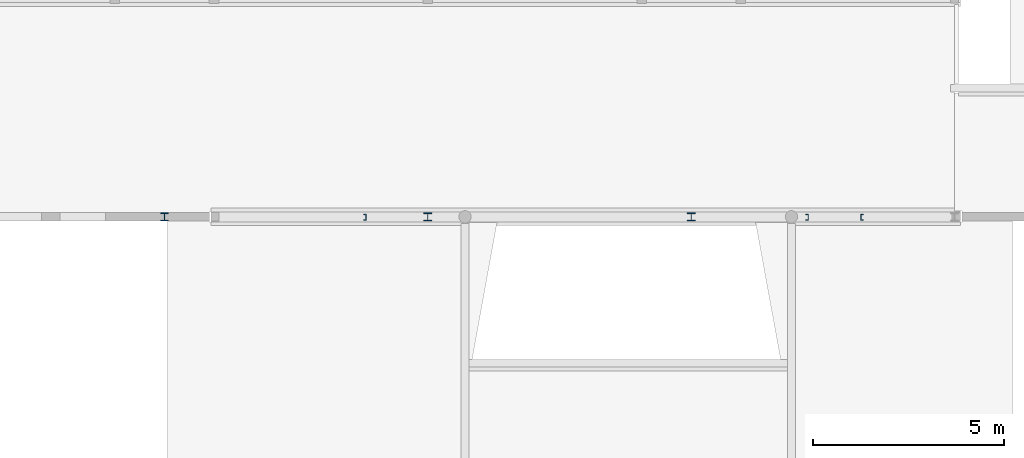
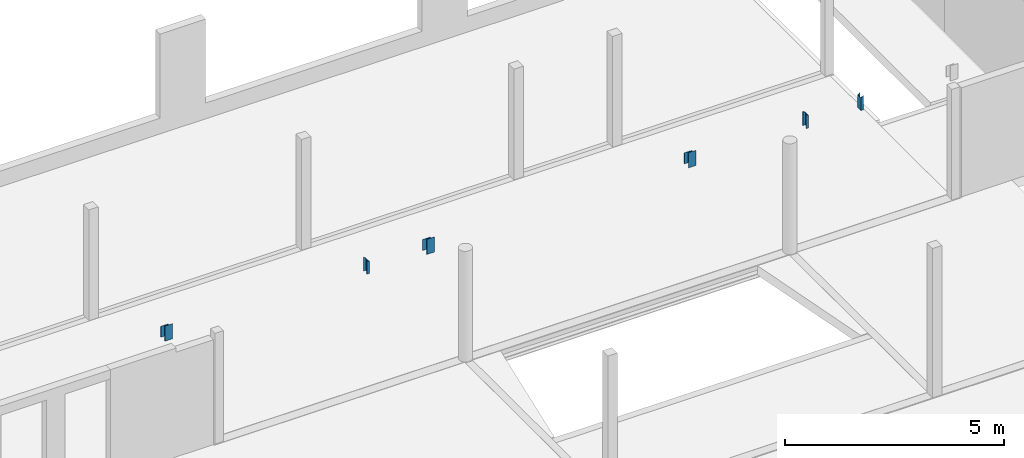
# One storey, part 5 of 6: 6 columns.
"""IFC2X3 building model written with IfcOpenShell, lengths in millimetres."""

from ifc_helpers import new_model, entity, si_unit, converted_unit, derived_unit, direction, frame, origin, place, context, subcontext, project, spatial, faceted_brep, source, transform, mapped, material, type_object, type_shapes, element, save


model = new_model("IFC2X3")

# Units and contexts
model_context = context("Model", 3, precision=0.01, world=origin(), true_north=direction((6.123031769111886e-17, 1.0)))
body_context = subcontext(model_context, "Body", "Model", "MODEL_VIEW")
ifc_project = project(units=[si_unit("LENGTHUNIT", "METRE", prefix="MILLI"), si_unit("AREAUNIT", "SQUARE_METRE", prefix="MILLI"), si_unit("VOLUMEUNIT", "CUBIC_METRE"), converted_unit("PLANEANGLEUNIT", "DEGREE", entity("IfcPlaneAngleMeasure", 0.017453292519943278), si_unit("PLANEANGLEUNIT", "RADIAN"), dimensions=[0, 0, 0, 0, 0, 0, 0]), si_unit("MASSUNIT", "GRAM", prefix="KILO"), derived_unit("MASSDENSITYUNIT", [(si_unit("MASSUNIT", "GRAM", prefix="KILO"), 1), (si_unit("LENGTHUNIT", "METRE"), -3)]), derived_unit("IONCONCENTRATIONUNIT", [(si_unit("MASSUNIT", "GRAM", prefix="KILO"), 1), (si_unit("LENGTHUNIT", "METRE"), -3)]), derived_unit("MOMENTOFINERTIAUNIT", [(si_unit("LENGTHUNIT", "METRE"), 4)]), si_unit("TIMEUNIT", "SECOND"), si_unit("FREQUENCYUNIT", "HERTZ"), si_unit("THERMODYNAMICTEMPERATUREUNIT", "DEGREE_CELSIUS"), derived_unit("THERMALTRANSMITTANCEUNIT", [(si_unit("MASSUNIT", "GRAM", prefix="KILO"), 1), (si_unit("THERMODYNAMICTEMPERATUREUNIT", "KELVIN"), -1), (si_unit("TIMEUNIT", "SECOND"), -3)]), derived_unit("THERMALCONDUCTANCEUNIT", [(si_unit("MASSUNIT", "GRAM", prefix="KILO"), 1), (si_unit("THERMODYNAMICTEMPERATUREUNIT", "KELVIN"), -1), (si_unit("TIMEUNIT", "SECOND"), -3), (si_unit("LENGTHUNIT", "METRE"), 1)]), derived_unit("VOLUMETRICFLOWRATEUNIT", [(si_unit("LENGTHUNIT", "METRE", prefix="DECI"), 3), (si_unit("TIMEUNIT", "SECOND"), -1)]), derived_unit("MASSFLOWRATEUNIT", [(si_unit("MASSUNIT", "GRAM", prefix="KILO"), 1), (si_unit("TIMEUNIT", "SECOND"), -1)]), derived_unit("ROTATIONALFREQUENCYUNIT", [(si_unit("TIMEUNIT", "SECOND"), -1)]), si_unit("ELECTRICCURRENTUNIT", "AMPERE"), si_unit("ELECTRICVOLTAGEUNIT", "VOLT"), si_unit("POWERUNIT", "WATT"), si_unit("FORCEUNIT", "NEWTON", prefix="KILO"), si_unit("ILLUMINANCEUNIT", "LUX"), si_unit("LUMINOUSFLUXUNIT", "LUMEN"), si_unit("LUMINOUSINTENSITYUNIT", "CANDELA"), si_unit("ENERGYUNIT", "JOULE"), derived_unit("USERDEFINED", [(si_unit("MASSUNIT", "GRAM", prefix="KILO"), -1), (si_unit("LENGTHUNIT", "METRE"), -2), (si_unit("TIMEUNIT", "SECOND"), 3), (si_unit("LUMINOUSFLUXUNIT", "LUMEN"), 1)]), derived_unit("USERDEFINED", [(si_unit("MASSUNIT", "GRAM", prefix="KILO"), 1), (si_unit("TIMEUNIT", "SECOND"), -3), (si_unit("LENGTHUNIT", "METRE"), 3), (si_unit("ELECTRICCURRENTUNIT", "AMPERE"), -2)]), derived_unit("SOUNDPOWERUNIT", [(si_unit("MASSUNIT", "GRAM", prefix="KILO"), 1), (si_unit("TIMEUNIT", "SECOND"), -3), (si_unit("LENGTHUNIT", "METRE"), 2)]), derived_unit("SOUNDPRESSUREUNIT", [(si_unit("MASSUNIT", "GRAM", prefix="KILO"), 1), (si_unit("LENGTHUNIT", "METRE"), -1), (si_unit("TIMEUNIT", "SECOND"), -2)]), derived_unit("LINEARVELOCITYUNIT", [(si_unit("LENGTHUNIT", "METRE"), 1), (si_unit("TIMEUNIT", "SECOND"), -1)]), si_unit("PRESSUREUNIT", "PASCAL"), derived_unit("USERDEFINED", [(si_unit("MASSUNIT", "GRAM", prefix="KILO"), 1), (si_unit("LENGTHUNIT", "METRE"), -2), (si_unit("TIMEUNIT", "SECOND"), -2)]), derived_unit("LINEARFORCEUNIT", [(si_unit("MASSUNIT", "GRAM", prefix="KILO"), 1), (si_unit("TIMEUNIT", "SECOND"), -2)]), derived_unit("PLANARFORCEUNIT", [(si_unit("MASSUNIT", "GRAM", prefix="KILO"), 1), (si_unit("LENGTHUNIT", "METRE"), -1), (si_unit("TIMEUNIT", "SECOND"), -2)]), derived_unit("SPECIFICHEATCAPACITYUNIT", [(si_unit("THERMODYNAMICTEMPERATUREUNIT", "KELVIN"), -1), (si_unit("LENGTHUNIT", "METRE"), 2), (si_unit("TIMEUNIT", "SECOND"), -2)]), derived_unit("HEATFLUXDENSITYUNIT", [(si_unit("MASSUNIT", "GRAM", prefix="KILO"), 1), (si_unit("TIMEUNIT", "SECOND"), -3)]), derived_unit("HEATINGVALUEUNIT", [(si_unit("LENGTHUNIT", "METRE"), 2), (si_unit("TIMEUNIT", "SECOND"), -2)]), derived_unit("VAPORPERMEABILITYUNIT", [(si_unit("LENGTHUNIT", "METRE"), -1), (si_unit("TIMEUNIT", "SECOND"), 1)]), derived_unit("DYNAMICVISCOSITYUNIT", [(si_unit("MASSUNIT", "GRAM", prefix="KILO"), 1), (si_unit("TIMEUNIT", "SECOND"), -1), (si_unit("LENGTHUNIT", "METRE"), -1)]), derived_unit("THERMALEXPANSIONCOEFFICIENTUNIT", [(si_unit("THERMODYNAMICTEMPERATUREUNIT", "KELVIN"), -1)]), derived_unit("MODULUSOFELASTICITYUNIT", [(si_unit("MASSUNIT", "GRAM", prefix="KILO"), 1), (si_unit("LENGTHUNIT", "METRE"), -1), (si_unit("TIMEUNIT", "SECOND"), -2)]), derived_unit("ISOTHERMALMOISTURECAPACITYUNIT", [(si_unit("MASSUNIT", "GRAM", prefix="KILO"), -1), (si_unit("LENGTHUNIT", "METRE"), 3)]), derived_unit("MOISTUREDIFFUSIVITYUNIT", [(si_unit("TIMEUNIT", "SECOND"), -1), (si_unit("LENGTHUNIT", "METRE"), 2)]), derived_unit("MASSPERLENGTHUNIT", [(si_unit("MASSUNIT", "GRAM", prefix="KILO"), 1), (si_unit("LENGTHUNIT", "METRE"), -1)]), derived_unit("THERMALRESISTANCEUNIT", [(si_unit("MASSUNIT", "GRAM", prefix="KILO"), -1), (si_unit("TIMEUNIT", "SECOND"), 3), (si_unit("THERMODYNAMICTEMPERATUREUNIT", "KELVIN"), 1)]), derived_unit("ACCELERATIONUNIT", [(si_unit("LENGTHUNIT", "METRE"), 1), (si_unit("TIMEUNIT", "SECOND"), -2)]), derived_unit("ANGULARVELOCITYUNIT", [(si_unit("TIMEUNIT", "SECOND"), -1), (si_unit("PLANEANGLEUNIT", "RADIAN"), 1)]), derived_unit("LINEARSTIFFNESSUNIT", [(si_unit("MASSUNIT", "GRAM", prefix="KILO"), 1), (si_unit("TIMEUNIT", "SECOND"), -2)]), derived_unit("WARPINGCONSTANTUNIT", [(si_unit("LENGTHUNIT", "METRE"), 6)]), derived_unit("LINEARMOMENTUNIT", [(si_unit("MASSUNIT", "GRAM", prefix="KILO"), 1), (si_unit("LENGTHUNIT", "METRE"), 1), (si_unit("TIMEUNIT", "SECOND"), -2)]), derived_unit("TORQUEUNIT", [(si_unit("MASSUNIT", "GRAM", prefix="KILO"), 1), (si_unit("LENGTHUNIT", "METRE"), 2), (si_unit("TIMEUNIT", "SECOND"), -2)])], contexts=[model_context])

# Site, building, storey
site_placement = place(None, origin())
site = spatial("IfcSite", under=ifc_project, at=site_placement, Name="Default", CompositionType="ELEMENT")
building_placement = place(site_placement, origin())
building = spatial("IfcBuilding", under=site, at=building_placement, CompositionType="ELEMENT")
storey_placement = place(building_placement, frame((0.0, 0.0, 7530.0)))
storey = spatial("IfcBuildingStorey", under=building, at=storey_placement, Name="V2 2e verd. (bk ruwe vloer)", CompositionType="ELEMENT", Elevation=7529.999999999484)

# Columns
ifc_material = material(Name="Metal - Steel - S235 JRG2 (standaard)")
column_type_1 = type_object("IfcColumnType", Name="btk_staal - HE(a-b-m):HEB200", PredefinedType="COLUMN", material=ifc_material)
shared_shape_1 = source(origin(), body_context, "Body", "Brep", [
    faceted_brep([(6925.0007812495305, 31837.573205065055, 10850.0), (6925.0007812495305, 31852.573205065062, 10850.0), (6925.0007812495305, 31852.573205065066, 11262.460047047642), (6925.0007812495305, 31837.573205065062, 11271.97184697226), (6725.0007812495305, 31837.573205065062, 10850.0), (6725.0007812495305, 31837.573205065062, 11271.97184697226), (6725.0007812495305, 31852.57320506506, 10850.0), (6725.0007812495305, 31852.573205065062, 11262.460047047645), (6820.5007812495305, 32022.57320506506, 10850.0), (6820.5007812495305, 31852.573205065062, 10850.0), (6820.5007812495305, 31852.573205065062, 11262.460047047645), (6820.5007812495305, 32022.57320506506, 11154.659647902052), (6725.0007812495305, 32022.57320506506, 10850.0), (6725.0007812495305, 32022.57320506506, 11154.659647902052), (6725.0007812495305, 32037.57320506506, 10850.0), (6725.0007812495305, 32037.57320506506, 11145.147847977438), (6925.0007812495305, 32037.57320506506, 10850.0), (6925.0007812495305, 32037.57320506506, 11145.147847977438), (6925.0007812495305, 32022.57320506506, 10850.0), (6829.5007812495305, 32022.57320506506, 10850.0), (6829.5007812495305, 31852.57320506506, 10850.0), (6925.0007812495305, 32022.57320506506, 11154.659647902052), (6829.5007812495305, 32022.57320506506, 11154.659647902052), (6829.5007812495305, 31852.573205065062, 11262.460047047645)], [[[0, 1, 2, 3]], [[4, 0, 3, 5]], [[6, 4, 5, 7]], [[8, 9, 10, 11]], [[12, 8, 11, 13]], [[14, 12, 13, 15]], [[16, 14, 15, 17]], [[12, 14, 16, 18, 19, 20, 1, 0, 4, 6, 9, 8]], [[18, 16, 17, 21]], [[19, 18, 21, 22]], [[20, 19, 22, 23]], [[1, 20, 23, 2]], [[9, 6, 7, 10]], [[3, 2, 23, 22, 21, 17, 15, 13, 11, 10, 7, 5]]]),
])
type_shapes(column_type_1, [shared_shape_1])
column_1_placement = place(storey_placement, frame((0.0, 0.0, -7530.0)))
element("IfcColumn", 1, at=column_1_placement, inside=storey, type_object=column_type_1, material=ifc_material, Name="btk_staal - HE(a-b-m):HEB200", ObjectType="btk_staal - HE(a-b-m):HEB200", context=body_context, shape_type="MappedRepresentation", body=[
    mapped(shared_shape_1, transform((0.0, 0.0, 0.0), scale=1.0)),
])
column_type_2 = type_object("IfcColumnType", Name="btk_staal - HE(a-b-m):HEB200", PredefinedType="COLUMN", material=ifc_material)
shared_shape_2 = source(origin(), body_context, "Body", "Brep", [
    faceted_brep([(13825.000781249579, 31837.57320506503, 10850.0), (13825.000781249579, 31852.573205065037, 10850.0), (13825.000781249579, 31852.57320506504, 11262.460047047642), (13825.000781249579, 31837.573205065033, 11271.97184697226), (13625.000781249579, 31837.573205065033, 10850.0), (13625.000781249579, 31837.573205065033, 11271.97184697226), (13625.000781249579, 31852.57320506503, 10850.0), (13625.000781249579, 31852.573205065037, 11262.460047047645), (13720.500781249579, 32022.573205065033, 10850.0), (13720.500781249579, 31852.573205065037, 10850.0), (13720.500781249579, 31852.573205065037, 11262.460047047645), (13720.500781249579, 32022.573205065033, 11154.659647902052), (13625.000781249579, 32022.573205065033, 10850.0), (13625.000781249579, 32022.573205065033, 11154.659647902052), (13625.000781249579, 32037.573205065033, 10850.0), (13625.000781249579, 32037.573205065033, 11145.147847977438), (13825.000781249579, 32037.573205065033, 10850.0), (13825.000781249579, 32037.573205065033, 11145.147847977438), (13825.000781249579, 32022.573205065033, 10850.0), (13729.500781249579, 32022.573205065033, 10850.0), (13729.500781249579, 31852.57320506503, 10850.0), (13825.000781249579, 32022.573205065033, 11154.659647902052), (13729.500781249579, 32022.573205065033, 11154.659647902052), (13729.500781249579, 31852.573205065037, 11262.460047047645)], [[[0, 1, 2, 3]], [[4, 0, 3, 5]], [[6, 4, 5, 7]], [[8, 9, 10, 11]], [[12, 8, 11, 13]], [[14, 12, 13, 15]], [[16, 14, 15, 17]], [[12, 14, 16, 18, 19, 20, 1, 0, 4, 6, 9, 8]], [[18, 16, 17, 21]], [[19, 18, 21, 22]], [[20, 19, 22, 23]], [[1, 20, 23, 2]], [[9, 6, 7, 10]], [[3, 2, 23, 22, 21, 17, 15, 13, 11, 10, 7, 5]]]),
])
type_shapes(column_type_2, [shared_shape_2])
column_2_placement = place(storey_placement, frame((0.0, 0.0, -7530.0)))
element("IfcColumn", 2, at=column_2_placement, inside=storey, type_object=column_type_2, material=ifc_material, Name="btk_staal - HE(a-b-m):HEB200", ObjectType="btk_staal - HE(a-b-m):HEB200", context=body_context, shape_type="MappedRepresentation", body=[
    mapped(shared_shape_2, transform((0.0, 0.0, 0.0), scale=1.0)),
])
column_type_3 = type_object("IfcColumnType", Name="btk_staal - HE(a-b-m):HEB200", PredefinedType="COLUMN", material=ifc_material)
shared_shape_3 = source(origin(), body_context, "Body", "Brep", [
    faceted_brep([(20724.984654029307, 31837.573205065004, 10850.0), (20724.984654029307, 31852.57320506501, 10850.0), (20724.984654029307, 31852.57320506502, 11262.460047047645), (20724.984654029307, 31837.573205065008, 11271.97184697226), (20524.984654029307, 31837.573205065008, 10850.0), (20524.984654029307, 31837.573205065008, 11271.97184697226), (20524.984654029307, 31852.573205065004, 10850.0), (20524.984654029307, 31852.57320506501, 11262.460047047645), (20620.484654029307, 32022.573205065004, 10850.0), (20620.484654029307, 31852.57320506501, 10850.0), (20620.484654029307, 31852.57320506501, 11262.46004704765), (20620.484654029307, 32022.573205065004, 11154.659647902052), (20524.984654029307, 32022.573205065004, 10850.0), (20524.984654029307, 32022.573205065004, 11154.659647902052), (20524.984654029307, 32037.573205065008, 10850.0), (20524.984654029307, 32037.573205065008, 11145.147847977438), (20724.984654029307, 32037.573205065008, 10850.0), (20724.984654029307, 32037.573205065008, 11145.147847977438), (20724.984654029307, 32022.573205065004, 10850.0), (20629.484654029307, 32022.573205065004, 10850.0), (20629.484654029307, 31852.573205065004, 10850.0), (20724.984654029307, 32022.573205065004, 11154.659647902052), (20629.484654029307, 32022.573205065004, 11154.659647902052), (20629.484654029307, 31852.57320506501, 11262.460047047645)], [[[0, 1, 2, 3]], [[4, 0, 3, 5]], [[6, 4, 5, 7]], [[8, 9, 10, 11]], [[12, 8, 11, 13]], [[14, 12, 13, 15]], [[16, 14, 15, 17]], [[12, 14, 16, 18, 19, 20, 1, 0, 4, 6, 9, 8]], [[18, 16, 17, 21]], [[19, 18, 21, 22]], [[20, 19, 22, 23]], [[1, 20, 23, 2]], [[9, 6, 7, 10]], [[3, 2, 23, 22, 21, 17, 15, 13, 11, 10, 7, 5]]]),
])
type_shapes(column_type_3, [shared_shape_3])
column_3_placement = place(storey_placement, frame((0.0, 0.0, -7530.0)))
element("IfcColumn", 3, at=column_3_placement, inside=storey, type_object=column_type_3, material=ifc_material, Name="btk_staal - HE(a-b-m):HEB200", ObjectType="btk_staal - HE(a-b-m):HEB200", context=body_context, shape_type="MappedRepresentation", body=[
    mapped(shared_shape_3, transform((0.0, 0.0, 0.0), scale=1.0)),
])
column_type_4 = type_object("IfcColumnType", Name="btk_staal - UNP:UNP160", PredefinedType="COLUMN", material=ifc_material)
shared_shape_4 = source(origin(), body_context, "Body", "Brep", [
    faceted_brep([(23628.27287445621, 32003.694997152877, 10850.0), (23628.27287445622, 31993.194997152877, 10850.0), (23628.27287445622, 31993.194997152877, 11239.378079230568), (23628.27287445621, 32003.69499715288, 11239.378079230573), (23628.27287445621, 31843.694997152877, 10850.0), (23693.272874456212, 31843.69499715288, 10850.0), (23693.272874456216, 31843.69499715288, 11198.160279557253), (23628.27287445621, 31843.694997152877, 11239.378079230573), (23685.772874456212, 31984.08789183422, 11202.91617951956), (23685.772874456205, 31863.302102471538, 11202.916179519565), (23628.27287445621, 31854.194997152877, 11239.378079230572), (23693.272874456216, 32003.69499715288, 11198.160279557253), (23628.27287445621, 31854.194997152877, 10850.0), (23685.77287445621, 31863.302102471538, 10850.0), (23685.772874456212, 31984.08789183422, 10850.0), (23693.272874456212, 32003.694997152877, 10850.0)], [[[0, 1, 2, 3]], [[4, 5, 6, 7]], [[3, 2, 8, 9, 10, 7, 6, 11]], [[5, 4, 12, 13, 14, 1, 0, 15]], [[12, 4, 7, 10]], [[13, 12, 10, 9]], [[14, 13, 9, 8]], [[1, 14, 8, 2]], [[15, 0, 3, 11]], [[5, 15, 11, 6]]]),
])
type_shapes(column_type_4, [shared_shape_4])
column_4_placement = place(storey_placement, frame((0.0, 0.0, -7530.0)))
element("IfcColumn", 4, at=column_4_placement, inside=storey, type_object=column_type_4, material=ifc_material, Name="btk_staal - UNP:UNP160", ObjectType="btk_staal - UNP:UNP160", context=body_context, shape_type="MappedRepresentation", body=[
    mapped(shared_shape_4, transform((0.0, 0.0, 0.0), scale=1.0)),
])
column_type_5 = type_object("IfcColumnType", Name="btk_staal - UNP:UNP160", PredefinedType="COLUMN", material=ifc_material)
shared_shape_5 = source(origin(), body_context, "Body", "Brep", [
    faceted_brep([(25135.37287445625, 31843.69499715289, 10850.0), (25135.372874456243, 31854.194997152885, 10850.0), (25135.372874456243, 31854.194997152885, 11239.378079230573), (25135.37287445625, 31843.69499715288, 11239.378079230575), (25135.37287445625, 32003.694997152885, 10850.0), (25070.37287445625, 32003.69499715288, 10850.0), (25070.37287445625, 32003.69499715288, 11198.160279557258), (25135.37287445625, 32003.694997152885, 11239.378079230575), (25077.872874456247, 31863.302102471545, 11202.916179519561), (25077.872874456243, 31984.08789183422, 11202.916179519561), (25135.37287445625, 31993.19499715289, 11239.378079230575), (25070.37287445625, 31843.69499715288, 11198.160279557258), (25135.37287445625, 31993.19499715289, 10850.0), (25077.87287445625, 31984.087891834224, 10850.0), (25077.87287445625, 31863.302102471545, 10850.0), (25070.37287445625, 31843.69499715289, 10850.0)], [[[0, 1, 2, 3]], [[4, 5, 6, 7]], [[3, 2, 8, 9, 10, 7, 6, 11]], [[5, 4, 12, 13, 14, 1, 0, 15]], [[12, 4, 7, 10]], [[13, 12, 10, 9]], [[14, 13, 9, 8]], [[1, 14, 8, 2]], [[15, 0, 3, 11]], [[5, 15, 11, 6]]]),
])
type_shapes(column_type_5, [shared_shape_5])
column_5_placement = place(storey_placement, frame((0.0, 0.0, -7530.0)))
element("IfcColumn", 5, at=column_5_placement, inside=storey, type_object=column_type_5, material=ifc_material, Name="btk_staal - UNP:UNP160", ObjectType="btk_staal - UNP:UNP160", context=body_context, shape_type="MappedRepresentation", body=[
    mapped(shared_shape_5, transform((0.0, 0.0, 0.0), scale=1.0)),
])
column_type_6 = type_object("IfcColumnType", Name="btk_staal - UNP:UNP160", PredefinedType="COLUMN", material=ifc_material)
shared_shape_6 = source(origin(), body_context, "Body", "Brep", [
    faceted_brep([(12047.442226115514, 32003.69499715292, 10850.0), (12047.44222611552, 31993.19499715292, 10850.0), (12047.44222611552, 31993.19499715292, 11230.756583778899), (12047.442226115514, 32003.694997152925, 11230.756583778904), (12047.442226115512, 31843.69499715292, 10850.0), (12112.442226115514, 31843.694997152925, 10850.0), (12112.442226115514, 31843.694997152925, 11189.538784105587), (12047.442226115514, 31843.69499715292, 11230.756583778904), (12104.942226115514, 31984.087891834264, 11194.294684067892), (12104.942226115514, 31863.30210247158, 11194.294684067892), (12047.442226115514, 31854.194997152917, 11230.756583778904), (12112.442226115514, 32003.694997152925, 11189.538784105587), (12047.442226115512, 31854.194997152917, 10850.0), (12104.942226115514, 31863.30210247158, 10850.0), (12104.942226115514, 31984.087891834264, 10850.0), (12112.442226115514, 32003.69499715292, 10850.0)], [[[0, 1, 2, 3]], [[4, 5, 6, 7]], [[3, 2, 8, 9, 10, 7, 6, 11]], [[5, 4, 12, 13, 14, 1, 0, 15]], [[12, 4, 7, 10]], [[13, 12, 10, 9]], [[14, 13, 9, 8]], [[1, 14, 8, 2]], [[15, 0, 3, 11]], [[5, 15, 11, 6]]]),
])
type_shapes(column_type_6, [shared_shape_6])
column_6_placement = place(storey_placement, frame((0.0, 0.0, -7530.0)))
element("IfcColumn", 6, at=column_6_placement, inside=storey, type_object=column_type_6, material=ifc_material, Name="btk_staal - UNP:UNP160", ObjectType="btk_staal - UNP:UNP160", context=body_context, shape_type="MappedRepresentation", body=[
    mapped(shared_shape_6, transform((0.0, 0.0, 0.0), scale=1.0)),
])

save(model, "model.ifc")
